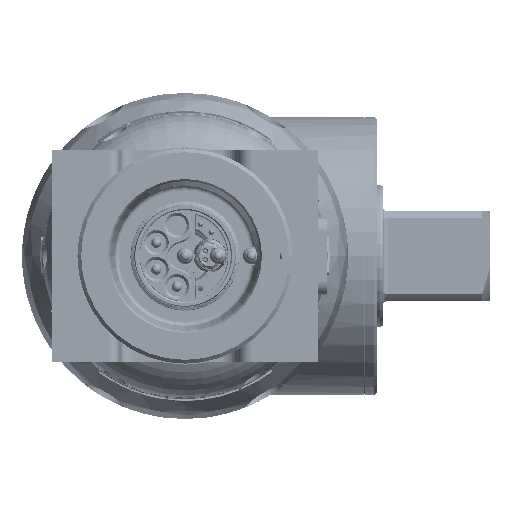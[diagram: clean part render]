
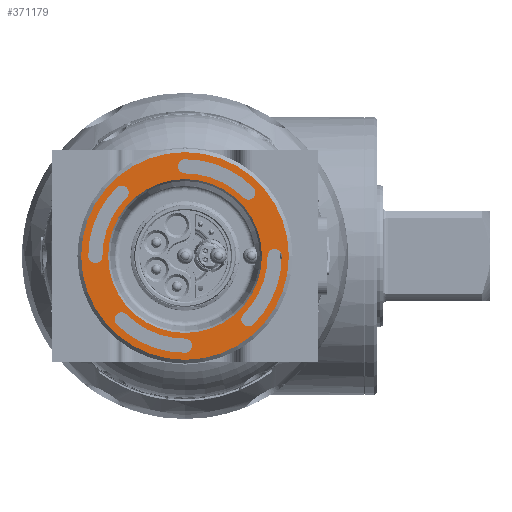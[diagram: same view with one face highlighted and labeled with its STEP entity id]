
A CAD part, left-side view. The second image highlights one B-rep face of the part: STEP entity #371179.
In plain terms, the highlighted planar face has unit normal (-1, 0, 0) as drawn and (0, 1, 0) by its records, which use the part's own axes.
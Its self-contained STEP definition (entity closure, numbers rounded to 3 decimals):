
#370038=CARTESIAN_POINT('',(0.,6.8,0.));
#370039=DIRECTION('',(0.,-1.,0.));
#370040=DIRECTION('',(0.,0.,-1.));
#370041=AXIS2_PLACEMENT_3D('',#370038,#370039,#370040);
#370043=CARTESIAN_POINT('',(0.,6.8,0.));
#370044=DIRECTION('',(0.,1.,0.));
#370045=DIRECTION('',(0.,0.,-1.));
#370046=AXIS2_PLACEMENT_3D('',#370043,#370044,#370045);
#370048=CARTESIAN_POINT('',(0.,6.8,0.));
#370049=DIRECTION('',(0.,1.,0.));
#370050=DIRECTION('',(-0.707,0.,0.707));
#370051=AXIS2_PLACEMENT_3D('',#370048,#370049,#370050);
#370053=CARTESIAN_POINT('',(0.,6.8,18.978));
#370054=DIRECTION('',(0.,1.,0.));
#370055=DIRECTION('',(0.,0.,1.));
#370056=AXIS2_PLACEMENT_3D('',#370053,#370054,#370055);
#370058=CARTESIAN_POINT('',(0.,6.8,0.));
#370059=DIRECTION('',(0.,1.,0.));
#370060=DIRECTION('',(-0.707,0.,0.707));
#370061=AXIS2_PLACEMENT_3D('',#370058,#370059,#370060);
#370063=CARTESIAN_POINT('',(-13.419,6.8,13.419));
#370064=DIRECTION('',(0.,1.,0.));
#370065=DIRECTION('',(0.707,0.,-0.707));
#370066=AXIS2_PLACEMENT_3D('',#370063,#370064,#370065);
#370068=CARTESIAN_POINT('',(0.,6.8,0.));
#370069=DIRECTION('',(0.,1.,0.));
#370070=DIRECTION('',(0.707,0.,0.707));
#370071=AXIS2_PLACEMENT_3D('',#370068,#370069,#370070);
#370073=CARTESIAN_POINT('',(18.978,6.8,0.));
#370074=DIRECTION('',(0.,1.,0.));
#370075=DIRECTION('',(1.,0.,0.));
#370076=AXIS2_PLACEMENT_3D('',#370073,#370074,#370075);
#370078=CARTESIAN_POINT('',(0.,6.8,0.));
#370079=DIRECTION('',(0.,1.,0.));
#370080=DIRECTION('',(0.707,0.,0.707));
#370081=AXIS2_PLACEMENT_3D('',#370078,#370079,#370080);
#370083=CARTESIAN_POINT('',(13.419,6.8,13.419));
#370084=DIRECTION('',(0.,1.,0.));
#370085=DIRECTION('',(-0.707,0.,-0.707));
#370086=AXIS2_PLACEMENT_3D('',#370083,#370084,#370085);
#370088=CARTESIAN_POINT('',(0.,6.8,0.));
#370089=DIRECTION('',(0.,1.,0.));
#370090=DIRECTION('',(0.707,0.,-0.707));
#370091=AXIS2_PLACEMENT_3D('',#370088,#370089,#370090);
#370093=CARTESIAN_POINT('',(0.,6.8,-18.978));
#370094=DIRECTION('',(0.,1.,0.));
#370095=DIRECTION('',(0.,0.,-1.));
#370096=AXIS2_PLACEMENT_3D('',#370093,#370094,#370095);
#370098=CARTESIAN_POINT('',(0.,6.8,0.));
#370099=DIRECTION('',(0.,1.,0.));
#370100=DIRECTION('',(0.707,0.,-0.707));
#370101=AXIS2_PLACEMENT_3D('',#370098,#370099,#370100);
#370103=CARTESIAN_POINT('',(13.419,6.8,-13.419));
#370104=DIRECTION('',(0.,1.,0.));
#370105=DIRECTION('',(-0.707,0.,0.707));
#370106=AXIS2_PLACEMENT_3D('',#370103,#370104,#370105);
#370108=CARTESIAN_POINT('',(0.,6.8,0.));
#370109=DIRECTION('',(0.,1.,0.));
#370110=DIRECTION('',(-0.707,0.,-0.707));
#370111=AXIS2_PLACEMENT_3D('',#370108,#370109,#370110);
#370113=CARTESIAN_POINT('',(-18.978,6.8,0.));
#370114=DIRECTION('',(0.,1.,0.));
#370115=DIRECTION('',(-1.,0.,0.));
#370116=AXIS2_PLACEMENT_3D('',#370113,#370114,#370115);
#370118=CARTESIAN_POINT('',(0.,6.8,0.));
#370119=DIRECTION('',(0.,1.,0.));
#370120=DIRECTION('',(-0.707,0.,-0.707));
#370121=AXIS2_PLACEMENT_3D('',#370118,#370119,#370120);
#370123=CARTESIAN_POINT('',(-13.419,6.8,-13.419));
#370124=DIRECTION('',(0.,1.,0.));
#370125=DIRECTION('',(0.707,0.,0.707));
#370126=AXIS2_PLACEMENT_3D('',#370123,#370124,#370125);
#370137=CARTESIAN_POINT('',(0.,6.8,0.));
#370138=DIRECTION('',(0.,1.,0.));
#370139=DIRECTION('',(0.,0.,-1.));
#370140=AXIS2_PLACEMENT_3D('',#370137,#370138,#370139);
#370151=CARTESIAN_POINT('',(0.,6.8,0.));
#370152=DIRECTION('',(0.,-1.,0.));
#370153=DIRECTION('',(0.,0.,-1.));
#370154=AXIS2_PLACEMENT_3D('',#370151,#370152,#370153);
#370373=CARTESIAN_POINT('',(0.,6.8,-21.975));
#370374=CARTESIAN_POINT('',(0.,6.8,21.975));
#370375=VERTEX_POINT('',#370373);
#370376=VERTEX_POINT('',#370374);
#370394=CARTESIAN_POINT('',(0.,6.8,-16.275));
#370396=VERTEX_POINT('',#370394);
#370398=CARTESIAN_POINT('',(0.,6.8,16.275));
#370400=VERTEX_POINT('',#370398);
#370437=CARTESIAN_POINT('',(-14.48,6.8,14.48));
#370438=CARTESIAN_POINT('',(0.,6.8,20.478));
#370439=VERTEX_POINT('',#370437);
#370440=VERTEX_POINT('',#370438);
#370441=CARTESIAN_POINT('',(0.,6.8,17.478));
#370442=VERTEX_POINT('',#370441);
#370443=CARTESIAN_POINT('',(-12.358,6.8,12.358));
#370444=VERTEX_POINT('',#370443);
#370453=CARTESIAN_POINT('',(14.48,6.8,14.48));
#370454=CARTESIAN_POINT('',(20.478,6.8,0.));
#370455=VERTEX_POINT('',#370453);
#370456=VERTEX_POINT('',#370454);
#370457=CARTESIAN_POINT('',(17.478,6.8,0.));
#370458=VERTEX_POINT('',#370457);
#370459=CARTESIAN_POINT('',(12.358,6.8,12.358));
#370460=VERTEX_POINT('',#370459);
#370469=CARTESIAN_POINT('',(14.48,6.8,-14.48));
#370470=CARTESIAN_POINT('',(0.,6.8,-20.478));
#370471=VERTEX_POINT('',#370469);
#370472=VERTEX_POINT('',#370470);
#370473=CARTESIAN_POINT('',(0.,6.8,-17.478));
#370474=VERTEX_POINT('',#370473);
#370475=CARTESIAN_POINT('',(12.358,6.8,-12.358));
#370476=VERTEX_POINT('',#370475);
#370485=CARTESIAN_POINT('',(-14.48,6.8,-14.48));
#370486=CARTESIAN_POINT('',(-20.478,6.8,0.));
#370487=VERTEX_POINT('',#370485);
#370488=VERTEX_POINT('',#370486);
#370489=CARTESIAN_POINT('',(-17.478,6.8,0.));
#370490=VERTEX_POINT('',#370489);
#370491=CARTESIAN_POINT('',(-12.358,6.8,-12.358));
#370492=VERTEX_POINT('',#370491);
#371124=CARTESIAN_POINT('',(0.,6.8,0.));
#371125=DIRECTION('',(0.,1.,0.));
#371126=DIRECTION('',(0.,0.,1.));
#371127=AXIS2_PLACEMENT_3D('',#371124,#371125,#371126);
#371128=PLANE('',#371127);
#371130=ORIENTED_EDGE('',*,*,#371129,.F.);
#371132=ORIENTED_EDGE('',*,*,#371131,.T.);
#371133=EDGE_LOOP('',(#371130,#371132));
#371134=FACE_OUTER_BOUND('',#371133,.F.);
#371135=ORIENTED_EDGE('',*,*,#371117,.F.);
#371136=ORIENTED_EDGE('',*,*,#371106,.T.);
#371137=EDGE_LOOP('',(#371135,#371136));
#371138=FACE_BOUND('',#371137,.F.);
#371140=ORIENTED_EDGE('',*,*,#371139,.T.);
#371142=ORIENTED_EDGE('',*,*,#371141,.T.);
#371144=ORIENTED_EDGE('',*,*,#371143,.F.);
#371146=ORIENTED_EDGE('',*,*,#371145,.T.);
#371147=EDGE_LOOP('',(#371140,#371142,#371144,#371146));
#371148=FACE_BOUND('',#371147,.F.);
#371150=ORIENTED_EDGE('',*,*,#371149,.T.);
#371152=ORIENTED_EDGE('',*,*,#371151,.T.);
#371154=ORIENTED_EDGE('',*,*,#371153,.F.);
#371156=ORIENTED_EDGE('',*,*,#371155,.T.);
#371157=EDGE_LOOP('',(#371150,#371152,#371154,#371156));
#371158=FACE_BOUND('',#371157,.F.);
#371160=ORIENTED_EDGE('',*,*,#371159,.T.);
#371162=ORIENTED_EDGE('',*,*,#371161,.T.);
#371164=ORIENTED_EDGE('',*,*,#371163,.F.);
#371166=ORIENTED_EDGE('',*,*,#371165,.T.);
#371167=EDGE_LOOP('',(#371160,#371162,#371164,#371166));
#371168=FACE_BOUND('',#371167,.F.);
#371170=ORIENTED_EDGE('',*,*,#371169,.T.);
#371172=ORIENTED_EDGE('',*,*,#371171,.T.);
#371174=ORIENTED_EDGE('',*,*,#371173,.F.);
#371176=ORIENTED_EDGE('',*,*,#371175,.T.);
#371177=EDGE_LOOP('',(#371170,#371172,#371174,#371176));
#371178=FACE_BOUND('',#371177,.F.);
#371179=ADVANCED_FACE('',(#371134,#371138,#371148,#371158,#371168,#371178),
#371128,.T.);
#370042=CIRCLE('',#370041,16.275);
#370047=CIRCLE('',#370046,16.275);
#370052=CIRCLE('',#370051,20.478);
#370057=CIRCLE('',#370056,1.5);
#370062=CIRCLE('',#370061,17.478);
#370067=CIRCLE('',#370066,1.5);
#370072=CIRCLE('',#370071,20.478);
#370077=CIRCLE('',#370076,1.5);
#370082=CIRCLE('',#370081,17.478);
#370087=CIRCLE('',#370086,1.5);
#370092=CIRCLE('',#370091,20.478);
#370097=CIRCLE('',#370096,1.5);
#370102=CIRCLE('',#370101,17.478);
#370107=CIRCLE('',#370106,1.5);
#370112=CIRCLE('',#370111,20.478);
#370117=CIRCLE('',#370116,1.5);
#370122=CIRCLE('',#370121,17.478);
#370127=CIRCLE('',#370126,1.5);
#370141=CIRCLE('',#370140,21.975);
#370155=CIRCLE('',#370154,21.975);
#371106=EDGE_CURVE('',#370396,#370400,#370047,.T.);
#371117=EDGE_CURVE('',#370396,#370400,#370042,.T.);
#371129=EDGE_CURVE('',#370375,#370376,#370141,.T.);
#371131=EDGE_CURVE('',#370375,#370376,#370155,.T.);
#371139=EDGE_CURVE('',#370439,#370440,#370052,.T.);
#371141=EDGE_CURVE('',#370440,#370442,#370057,.T.);
#371143=EDGE_CURVE('',#370444,#370442,#370062,.T.);
#371145=EDGE_CURVE('',#370444,#370439,#370067,.T.);
#371149=EDGE_CURVE('',#370455,#370456,#370072,.T.);
#371151=EDGE_CURVE('',#370456,#370458,#370077,.T.);
#371153=EDGE_CURVE('',#370460,#370458,#370082,.T.);
#371155=EDGE_CURVE('',#370460,#370455,#370087,.T.);
#371159=EDGE_CURVE('',#370471,#370472,#370092,.T.);
#371161=EDGE_CURVE('',#370472,#370474,#370097,.T.);
#371163=EDGE_CURVE('',#370476,#370474,#370102,.T.);
#371165=EDGE_CURVE('',#370476,#370471,#370107,.T.);
#371169=EDGE_CURVE('',#370487,#370488,#370112,.T.);
#371171=EDGE_CURVE('',#370488,#370490,#370117,.T.);
#371173=EDGE_CURVE('',#370492,#370490,#370122,.T.);
#371175=EDGE_CURVE('',#370492,#370487,#370127,.T.);
